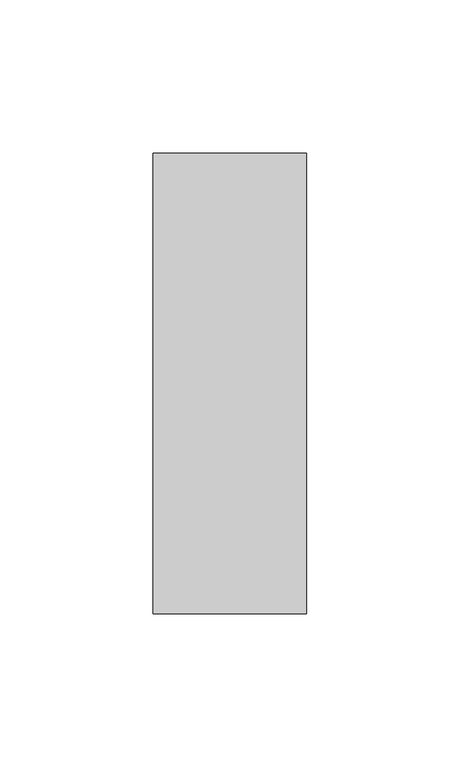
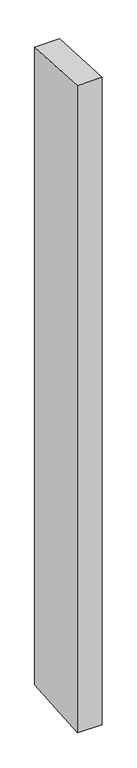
"""IFC4 building model written with IfcOpenShell, lengths in millimetres: member geometry, Прямоугольный импост : 50 x 150 мм."""

from ifc_helpers import new_model, si_unit, origin, place, context, project, spatial, faceted_brep, source, transform, mapped, element, save


def member_9da60276(model_context):
    return source(origin(), model_context, "Body", "Brep", [
        faceted_brep([(-25.0, 75.0, -4.5646139), (25.0, 75.0, -3.8523522), (25.0, 75.0, -1374.3729877), (-25.0, 75.0, -1373.659724), (-25.0, -75.0, 3.8523522), (-25.0, -75.0, -1385.3416882), (25.0, -75.0, 4.5646139), (25.0, -75.0, -1386.0549519)], [[[0, 1, 2, 3]], [[4, 0, 3, 5]], [[6, 4, 5, 7]], [[1, 6, 7, 2]], [[1, 0, 4, 6]], [[2, 7, 5, 3]]]),
    ])


if __name__ == "__main__":
    model = new_model("IFC4")
    model_context = context("Model", 3, world=origin())
    ifc_project = project(units=[si_unit("LENGTHUNIT", "METRE", prefix="MILLI")], contexts=[model_context])
    site = spatial("IfcSite", under=ifc_project)
    building = spatial("IfcBuilding", under=site)
    placement = place(None, origin())
    member_shape = member_9da60276(model_context)
    element("IfcMember", 1, ObjectType="Прямоугольный импост : 50 x 150 мм", at=placement, inside=building, context=model_context, shape_type="MappedRepresentation", body=[
        mapped(member_shape, transform((0.0, 0.0, 0.0), x_axis=(1.0, 0.0, 0.0), y_axis=(0.0, 1.0, 0.0), z_axis=(0.0, 0.0, 1.0))),
    ])
    save(model, "model.ifc")
